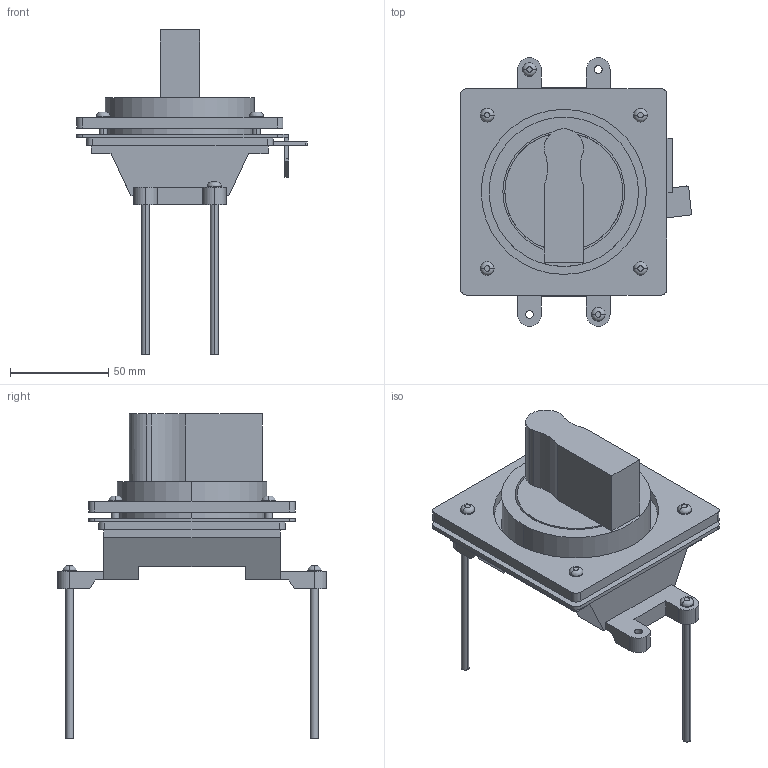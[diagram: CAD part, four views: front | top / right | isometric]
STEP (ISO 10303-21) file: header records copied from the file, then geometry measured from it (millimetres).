
FILE_DESCRIPTION( ( '' ), '1' );
FILE_NAME( 'E:/D&C電子外形図_3D/step/distribution/g-twin/breaker_accessory/handle/BW9N0CA.stp', '2012-10-19T07:44:01', ( '' ), ( '' ), ' ', ' ', ' ' );
FILE_SCHEMA( ( 'automotive_design' ) );
Length unit declared in the file: millimetre
Products named in the file (10): 1; 2; 3; 4; 5; 6; 7; 8; 9; 10
Bounding box: 117.4 x 136.6 x 165 mm (x, y, z)
Volume: 355310.4 mm3; surface area: 90085 mm2
Topology: 10 solids, 10 shells, 196 faces, 500 edges, 332 vertices
Faces by surface type: plane 100, cylinder 84, torus 12
Entity records: 12023 total; most frequent: DIRECTION 1128, STYLED_ITEM 1038, PRESENTATION_STYLE_ASSIGNMENT 1038, CARTESIAN_POINT 1038, COLOUR_RGB 1038, ORIENTED_EDGE 1000, EDGE_CURVE 500, CURVE_STYLE 500
